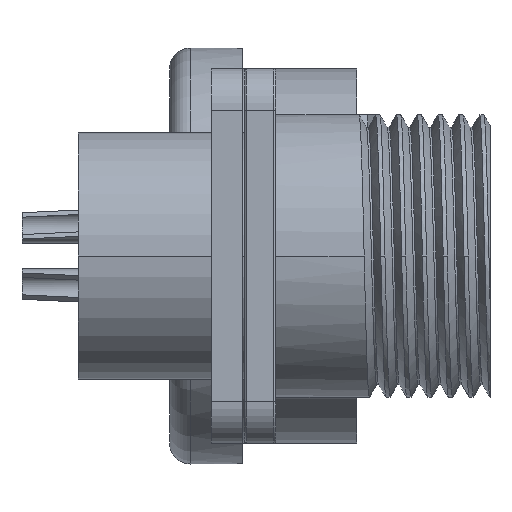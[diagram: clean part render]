
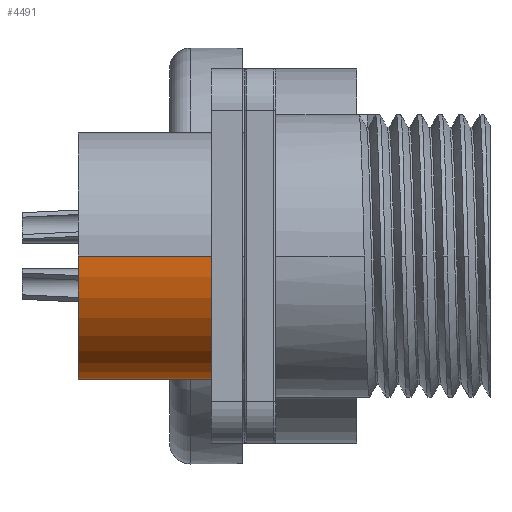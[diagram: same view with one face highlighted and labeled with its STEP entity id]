
A CAD part, front view. The second image highlights one B-rep face of the part: STEP entity #4491.
In plain terms, the highlighted cylindrical face has radius 5.95 mm (diameter 11.9 mm), a partial arc.
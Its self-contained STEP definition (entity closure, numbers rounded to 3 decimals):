
#1=CARTESIAN_POINT('',(0.,0.,0.));
#2=DIRECTION('',(-1.,0.,0.));
#3=DIRECTION('',(0.,1.,0.));
#4=AXIS2_PLACEMENT_3D('',#1,#2,#3);
#21=DIRECTION('',(-1.,0.,0.));
#22=VECTOR('',#21,6.4);
#23=CARTESIAN_POINT('',(6.4,5.95,0.));
#24=LINE('',#23,#22);
#25=DIRECTION('',(1.,0.,0.));
#26=VECTOR('',#25,6.4);
#27=CARTESIAN_POINT('',(0.,-5.95,0.));
#28=LINE('',#27,#26);
#29=CARTESIAN_POINT('',(6.4,0.,0.));
#30=DIRECTION('',(1.,0.,0.));
#31=DIRECTION('',(0.,-1.,0.));
#32=AXIS2_PLACEMENT_3D('',#29,#30,#31);
#3743=CARTESIAN_POINT('',(0.,5.95,0.));
#3744=CARTESIAN_POINT('',(0.,-5.95,0.));
#3745=VERTEX_POINT('',#3743);
#3746=VERTEX_POINT('',#3744);
#4247=CARTESIAN_POINT('',(6.4,5.95,0.));
#4248=CARTESIAN_POINT('',(6.4,-5.95,0.));
#4249=VERTEX_POINT('',#4247);
#4250=VERTEX_POINT('',#4248);
#4477=CARTESIAN_POINT('',(-0.99,0.,0.));
#4478=DIRECTION('',(1.,0.,0.));
#4479=DIRECTION('',(0.,-1.,0.));
#4480=AXIS2_PLACEMENT_3D('',#4477,#4478,#4479);
#4481=CYLINDRICAL_SURFACE('',#4480,5.95);
#4483=ORIENTED_EDGE('',*,*,#4482,.T.);
#4484=ORIENTED_EDGE('',*,*,#4464,.T.);
#4486=ORIENTED_EDGE('',*,*,#4485,.T.);
#4488=ORIENTED_EDGE('',*,*,#4487,.T.);
#4489=EDGE_LOOP('',(#4483,#4484,#4486,#4488));
#4490=FACE_OUTER_BOUND('',#4489,.F.);
#4491=ADVANCED_FACE('',(#4490),#4481,.T.);
#5=CIRCLE('',#4,5.95);
#33=CIRCLE('',#32,5.95);
#4464=EDGE_CURVE('',#3745,#3746,#5,.T.);
#4482=EDGE_CURVE('',#4249,#3745,#24,.T.);
#4485=EDGE_CURVE('',#3746,#4250,#28,.T.);
#4487=EDGE_CURVE('',#4250,#4249,#33,.T.);
